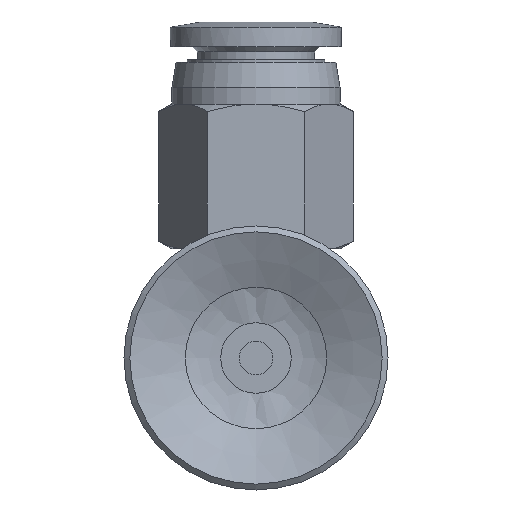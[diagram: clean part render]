
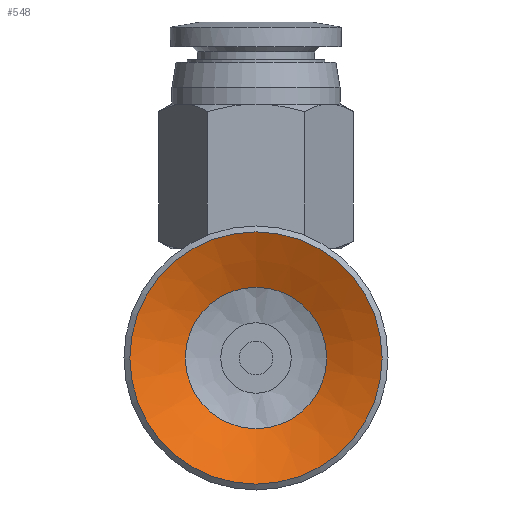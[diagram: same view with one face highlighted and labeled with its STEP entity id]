
A CAD part, front view. The second image highlights one B-rep face of the part: STEP entity #548.
In plain terms, the highlighted conical face has half-angle 65.056 degrees and reference radius 3.2 mm.
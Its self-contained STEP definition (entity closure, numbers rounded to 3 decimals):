
#548=ADVANCED_FACE('',(#842,#843),#844,.F.);
#842=FACE_BOUND('',#1235,.T.);
#843=FACE_OUTER_BOUND('',#1236,.T.);
#844=CONICAL_SURFACE('',#1237,3.2,1.135);
#1235=EDGE_LOOP('',(#2254));
#1236=EDGE_LOOP('',(#2255));
#1237=AXIS2_PLACEMENT_3D('',#2256,#2257,#2258);
#2254=ORIENTED_EDGE('',*,*,#2793,.T.);
#2255=ORIENTED_EDGE('',*,*,#2794,.T.);
#2256=CARTESIAN_POINT('',(0.0,7.896,0.0));
#2257=DIRECTION('',(-0.0,-1.0,0.));
#2258=DIRECTION('',(0.0,0.,-1.0));
#2793=EDGE_CURVE('',#3174,#3174,#3175,.T.);
#2794=EDGE_CURVE('',#3176,#3176,#3177,.T.);
#3174=VERTEX_POINT('',#4012);
#3175=CIRCLE('',#4013,4.203);
#3176=VERTEX_POINT('',#4014);
#3177=CIRCLE('',#4015,7.5);
#4012=CARTESIAN_POINT('',(0.0,7.43,-4.203));
#4013=AXIS2_PLACEMENT_3D('',#4756,#4757,#4758);
#4014=CARTESIAN_POINT('',(0.0,5.896,-7.5));
#4015=AXIS2_PLACEMENT_3D('',#4759,#4760,#4761);
#4756=CARTESIAN_POINT('',(0.0,7.43,0.0));
#4757=DIRECTION('',(0.0,1.0,0.));
#4758=DIRECTION('',(0.0,0.,-1.0));
#4759=CARTESIAN_POINT('',(0.0,5.896,0.0));
#4760=DIRECTION('',(0.0,-1.0,0.));
#4761=DIRECTION('',(0.0,0.,-1.0));
